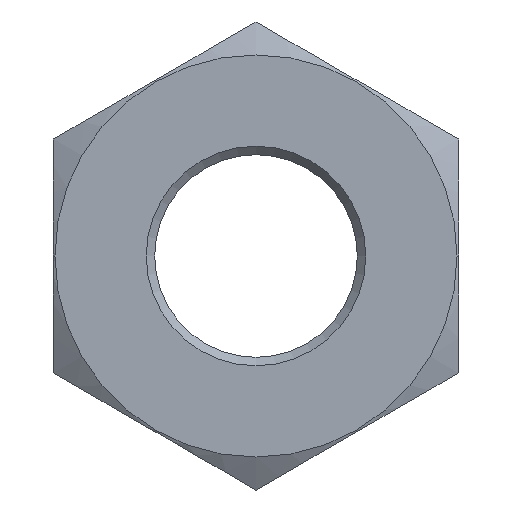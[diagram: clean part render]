
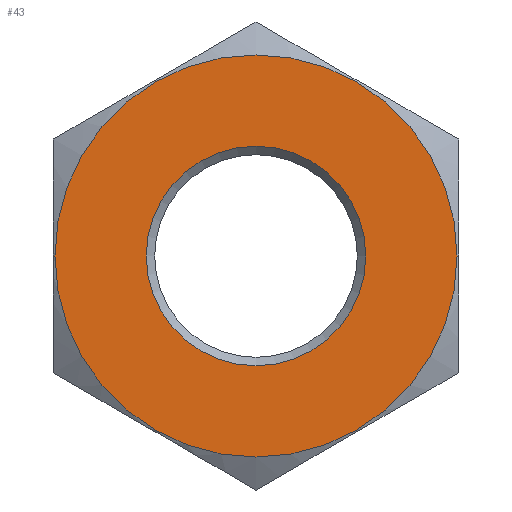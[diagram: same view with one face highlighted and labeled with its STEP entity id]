
A CAD part, left-side view. The second image highlights one B-rep face of the part: STEP entity #43.
In plain terms, the highlighted planar face has unit normal (-1, 0, 0).
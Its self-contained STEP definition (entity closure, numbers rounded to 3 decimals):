
#43 = ADVANCED_FACE( '', ( #96, #97 ), #98, .F. );
#96 = FACE_BOUND( '', #165, .T. );
#97 = FACE_OUTER_BOUND( '', #166, .T. );
#98 = PLANE( '', #167 );
#165 = EDGE_LOOP( '', ( #230 ) );
#166 = EDGE_LOOP( '', ( #231 ) );
#167 = AXIS2_PLACEMENT_3D( '', #232, #233, #234 );
#230 = ORIENTED_EDGE( '', *, *, #349, .T. );
#231 = ORIENTED_EDGE( '', *, *, #351, .T. );
#232 = CARTESIAN_POINT( '', ( -17.5, 0., 0. ) );
#233 = DIRECTION( '', ( 1., 0., 0. ) );
#234 = DIRECTION( '', ( 0., 1., 0. ) );
#349 = EDGE_CURVE( '', #395, #395, #396, .T. );
#351 = EDGE_CURVE( '', #398, #398, #399, .T. );
#395 = VERTEX_POINT( '', #462 );
#396 = CIRCLE( '', #463, 6.5 );
#398 = VERTEX_POINT( '', #465 );
#399 = CIRCLE( '', #466, 11.906 );
#462 = CARTESIAN_POINT( '', ( -17.5, 6.5, 0. ) );
#463 = AXIS2_PLACEMENT_3D( '', #667, #668, #669 );
#465 = CARTESIAN_POINT( '', ( -17.5, 0., 11.906 ) );
#466 = AXIS2_PLACEMENT_3D( '', #670, #671, #672 );
#667 = CARTESIAN_POINT( '', ( -17.5, 0., 0. ) );
#668 = DIRECTION( '', ( 1., 0., 0. ) );
#669 = DIRECTION( '', ( 0., 1., 0. ) );
#670 = CARTESIAN_POINT( '', ( -17.5, 0., 0. ) );
#671 = DIRECTION( '', ( -1., 0., 0. ) );
#672 = DIRECTION( '', ( 0., 0., 1. ) );
